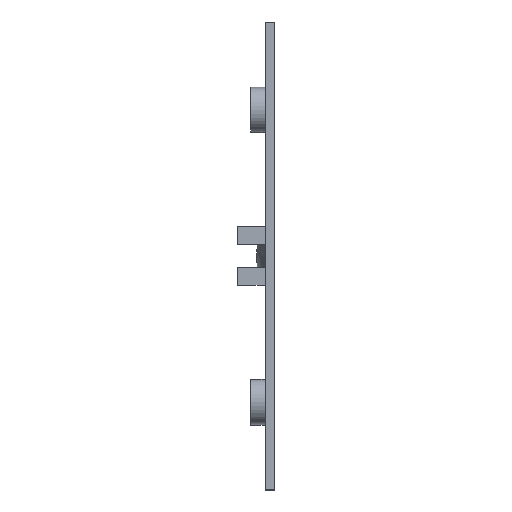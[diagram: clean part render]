
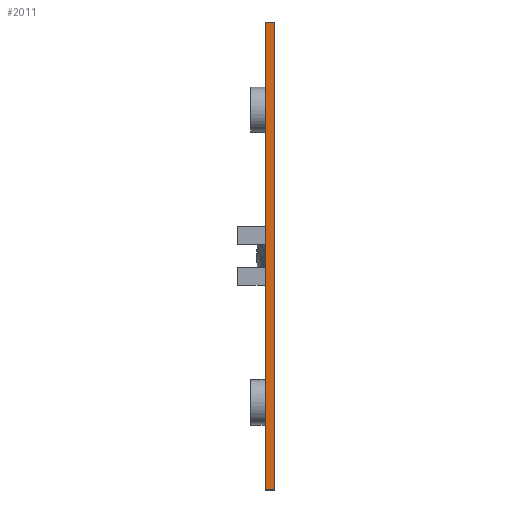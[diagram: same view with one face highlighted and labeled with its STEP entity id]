
A CAD part, top view. The second image highlights one B-rep face of the part: STEP entity #2011.
In plain terms, the highlighted planar face has unit normal (0, 0, 1).
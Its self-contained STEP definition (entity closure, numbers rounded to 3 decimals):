
#2011 = ADVANCED_FACE('',(#2012),#2026,.T.);
#2012 = FACE_BOUND('',#2013,.T.);
#2013 = EDGE_LOOP('',(#2014,#2049,#2077,#2105));
#2014 = ORIENTED_EDGE('',*,*,#2015,.F.);
#2015 = EDGE_CURVE('',#2016,#2018,#2020,.T.);
#2016 = VERTEX_POINT('',#2017);
#2017 = CARTESIAN_POINT('',(64.5,64.,128.75));
#2018 = VERTEX_POINT('',#2019);
#2019 = CARTESIAN_POINT('',(64.5,0.,128.75));
#2020 = SURFACE_CURVE('',#2021,(#2025,#2037),.PCURVE_S1.);
#2021 = LINE('',#2022,#2023);
#2022 = CARTESIAN_POINT('',(64.5,64.,128.75));
#2023 = VECTOR('',#2024,1.);
#2024 = DIRECTION('',(0.,-1.,0.));
#2025 = PCURVE('',#2026,#2031);
#2026 = PLANE('',#2027);
#2027 = AXIS2_PLACEMENT_3D('',#2028,#2029,#2030);
#2028 = CARTESIAN_POINT('',(64.5,64.,128.75));
#2029 = DIRECTION('',(0.,0.,1.));
#2030 = DIRECTION('',(-1.,0.,0.));
#2031 = DEFINITIONAL_REPRESENTATION('',(#2032),#2036);
#2032 = LINE('',#2033,#2034);
#2033 = CARTESIAN_POINT('',(0.,0.));
#2034 = VECTOR('',#2035,1.);
#2035 = DIRECTION('',(0.,1.));
#2036 = ( GEOMETRIC_REPRESENTATION_CONTEXT(2) 
PARAMETRIC_REPRESENTATION_CONTEXT() REPRESENTATION_CONTEXT('2D SPACE',''
  ) );
#2037 = PCURVE('',#2038,#2043);
#2038 = PLANE('',#2039);
#2039 = AXIS2_PLACEMENT_3D('',#2040,#2041,#2042);
#2040 = CARTESIAN_POINT('',(64.5,64.,98.));
#2041 = DIRECTION('',(-1.,0.,0.));
#2042 = DIRECTION('',(0.,0.,1.));
#2043 = DEFINITIONAL_REPRESENTATION('',(#2044),#2048);
#2044 = LINE('',#2045,#2046);
#2045 = CARTESIAN_POINT('',(30.75,0.));
#2046 = VECTOR('',#2047,1.);
#2047 = DIRECTION('',(0.,-1.));
#2048 = ( GEOMETRIC_REPRESENTATION_CONTEXT(2) 
PARAMETRIC_REPRESENTATION_CONTEXT() REPRESENTATION_CONTEXT('2D SPACE',''
  ) );
#2049 = ORIENTED_EDGE('',*,*,#2050,.T.);
#2050 = EDGE_CURVE('',#2016,#2051,#2053,.T.);
#2051 = VERTEX_POINT('',#2052);
#2052 = CARTESIAN_POINT('',(63.25,64.,128.75));
#2053 = SURFACE_CURVE('',#2054,(#2058,#2065),.PCURVE_S1.);
#2054 = LINE('',#2055,#2056);
#2055 = CARTESIAN_POINT('',(64.5,64.,128.75));
#2056 = VECTOR('',#2057,1.);
#2057 = DIRECTION('',(-1.,0.,0.));
#2058 = PCURVE('',#2026,#2059);
#2059 = DEFINITIONAL_REPRESENTATION('',(#2060),#2064);
#2060 = LINE('',#2061,#2062);
#2061 = CARTESIAN_POINT('',(0.,0.));
#2062 = VECTOR('',#2063,1.);
#2063 = DIRECTION('',(1.,0.));
#2064 = ( GEOMETRIC_REPRESENTATION_CONTEXT(2) 
PARAMETRIC_REPRESENTATION_CONTEXT() REPRESENTATION_CONTEXT('2D SPACE',''
  ) );
#2065 = PCURVE('',#2066,#2071);
#2066 = PLANE('',#2067);
#2067 = AXIS2_PLACEMENT_3D('',#2068,#2069,#2070);
#2068 = CARTESIAN_POINT('',(64.5,64.,98.));
#2069 = DIRECTION('',(0.,-1.,0.));
#2070 = DIRECTION('',(0.,0.,1.));
#2071 = DEFINITIONAL_REPRESENTATION('',(#2072),#2076);
#2072 = LINE('',#2073,#2074);
#2073 = CARTESIAN_POINT('',(30.75,0.));
#2074 = VECTOR('',#2075,1.);
#2075 = DIRECTION('',(0.,1.));
#2076 = ( GEOMETRIC_REPRESENTATION_CONTEXT(2) 
PARAMETRIC_REPRESENTATION_CONTEXT() REPRESENTATION_CONTEXT('2D SPACE',''
  ) );
#2077 = ORIENTED_EDGE('',*,*,#2078,.T.);
#2078 = EDGE_CURVE('',#2051,#2079,#2081,.T.);
#2079 = VERTEX_POINT('',#2080);
#2080 = CARTESIAN_POINT('',(63.25,0.,128.75));
#2081 = SURFACE_CURVE('',#2082,(#2086,#2093),.PCURVE_S1.);
#2082 = LINE('',#2083,#2084);
#2083 = CARTESIAN_POINT('',(63.25,64.,128.75));
#2084 = VECTOR('',#2085,1.);
#2085 = DIRECTION('',(0.,-1.,0.));
#2086 = PCURVE('',#2026,#2087);
#2087 = DEFINITIONAL_REPRESENTATION('',(#2088),#2092);
#2088 = LINE('',#2089,#2090);
#2089 = CARTESIAN_POINT('',(1.25,0.));
#2090 = VECTOR('',#2091,1.);
#2091 = DIRECTION('',(0.,1.));
#2092 = ( GEOMETRIC_REPRESENTATION_CONTEXT(2) 
PARAMETRIC_REPRESENTATION_CONTEXT() REPRESENTATION_CONTEXT('2D SPACE',''
  ) );
#2093 = PCURVE('',#2094,#2099);
#2094 = PLANE('',#2095);
#2095 = AXIS2_PLACEMENT_3D('',#2096,#2097,#2098);
#2096 = CARTESIAN_POINT('',(63.25,64.,98.));
#2097 = DIRECTION('',(-1.,0.,0.));
#2098 = DIRECTION('',(0.,0.,1.));
#2099 = DEFINITIONAL_REPRESENTATION('',(#2100),#2104);
#2100 = LINE('',#2101,#2102);
#2101 = CARTESIAN_POINT('',(30.75,0.));
#2102 = VECTOR('',#2103,1.);
#2103 = DIRECTION('',(0.,-1.));
#2104 = ( GEOMETRIC_REPRESENTATION_CONTEXT(2) 
PARAMETRIC_REPRESENTATION_CONTEXT() REPRESENTATION_CONTEXT('2D SPACE',''
  ) );
#2105 = ORIENTED_EDGE('',*,*,#2106,.F.);
#2106 = EDGE_CURVE('',#2018,#2079,#2107,.T.);
#2107 = SURFACE_CURVE('',#2108,(#2112,#2119),.PCURVE_S1.);
#2108 = LINE('',#2109,#2110);
#2109 = CARTESIAN_POINT('',(64.5,0.,128.75));
#2110 = VECTOR('',#2111,1.);
#2111 = DIRECTION('',(-1.,0.,0.));
#2112 = PCURVE('',#2026,#2113);
#2113 = DEFINITIONAL_REPRESENTATION('',(#2114),#2118);
#2114 = LINE('',#2115,#2116);
#2115 = CARTESIAN_POINT('',(0.,64.));
#2116 = VECTOR('',#2117,1.);
#2117 = DIRECTION('',(1.,0.));
#2118 = ( GEOMETRIC_REPRESENTATION_CONTEXT(2) 
PARAMETRIC_REPRESENTATION_CONTEXT() REPRESENTATION_CONTEXT('2D SPACE',''
  ) );
#2119 = PCURVE('',#2120,#2125);
#2120 = PLANE('',#2121);
#2121 = AXIS2_PLACEMENT_3D('',#2122,#2123,#2124);
#2122 = CARTESIAN_POINT('',(64.5,0.,98.));
#2123 = DIRECTION('',(0.,-1.,0.));
#2124 = DIRECTION('',(0.,0.,1.));
#2125 = DEFINITIONAL_REPRESENTATION('',(#2126),#2130);
#2126 = LINE('',#2127,#2128);
#2127 = CARTESIAN_POINT('',(30.75,0.));
#2128 = VECTOR('',#2129,1.);
#2129 = DIRECTION('',(0.,1.));
#2130 = ( GEOMETRIC_REPRESENTATION_CONTEXT(2) 
PARAMETRIC_REPRESENTATION_CONTEXT() REPRESENTATION_CONTEXT('2D SPACE',''
  ) );
